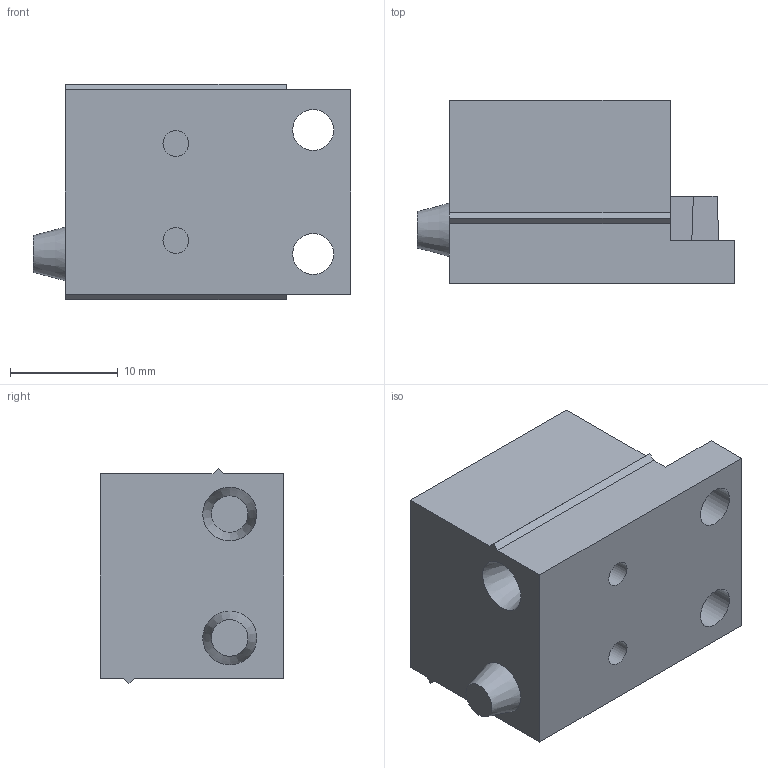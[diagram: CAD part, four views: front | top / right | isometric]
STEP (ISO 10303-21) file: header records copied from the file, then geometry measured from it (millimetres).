
FILE_DESCRIPTION(/* description */ ('STEP AP203'),/* implementation_level */ '2;1');
FILE_NAME(/* name */ '107847 TMS-STPG-GY',/* time_stamp */ '2024-10-04T14:41:36+02:00',/* author */ ('License CC BY-ND 4.0'),/* organization */ ('CADENAS'),/* preprocessor_version */ 'ST-DEVELOPER v19.3',/* originating_system */ 'PARTsolutions',/* authorisation */ ' ');
FILE_SCHEMA (('CONFIG_CONTROL_DESIGN'));
Length unit declared in the file: millimetre
Products named in the file (1): 107847 TMS-STPG-GY
Bounding box: 29.5 x 17 x 20 mm (x, y, z)
Volume: 7023.6 mm3; surface area: 2675.7 mm2
Topology: 1 solids, 1 shells, 36 faces, 84 edges, 56 vertices
Faces by surface type: plane 28, cylinder 6, cone 2
Full cylindrical faces by diameter (mm): 2.4 x4, 3.8 x2
Entity records: 1022 total; most frequent: CARTESIAN_POINT 169, DIRECTION 166, ORIENTED_EDGE 152, EDGE_CURVE 76, LINE 60, VECTOR 60, VERTEX_POINT 56, EDGE_LOOP 54
